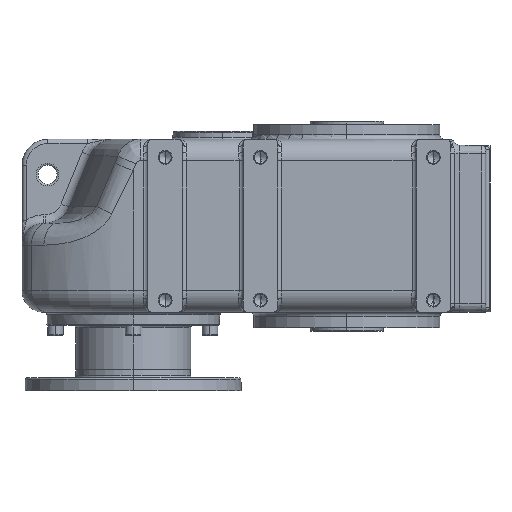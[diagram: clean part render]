
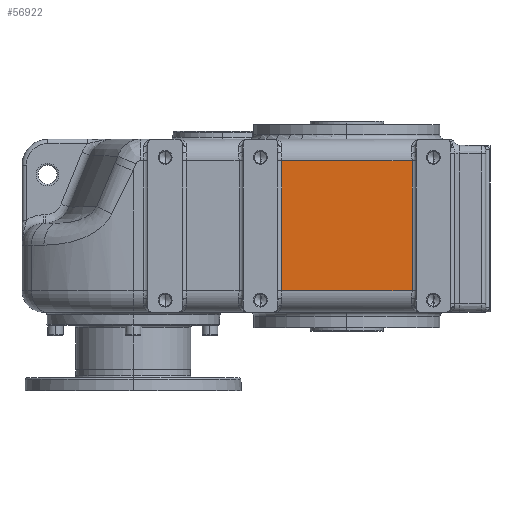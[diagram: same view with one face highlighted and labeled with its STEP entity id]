
A CAD part, left-side view. The second image highlights one B-rep face of the part: STEP entity #56922.
In plain terms, the highlighted planar face has unit normal (-1, 0, 0).
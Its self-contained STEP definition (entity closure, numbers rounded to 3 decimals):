
#261 = EDGE_CURVE ( 'NONE', #294, #56920, #96071, .T. ) ;
#271 = ORIENTED_EDGE ( 'NONE', *, *, #261, .T. ) ;
#292 = EDGE_CURVE ( 'NONE', #8534, #294, #96179, .T. ) ;
#294 = VERTEX_POINT ( 'NONE', #96171 ) ;
#305 = ORIENTED_EDGE ( 'NONE', *, *, #292, .T. ) ;
#8534 = VERTEX_POINT ( 'NONE', #96431 ) ;
#9127 = ORIENTED_EDGE ( 'NONE', *, *, #9833, .T. ) ;
#9833 = EDGE_CURVE ( 'NONE', #56923, #8534, #96416, .T. ) ;
#20464 = DIRECTION ( 'NONE',  ( 0., 1., 0. ) ) ;
#20465 = VECTOR ( 'NONE', #20464, 1000. ) ;
#20466 = CARTESIAN_POINT ( 'NONE',  ( -162., 85., 175. ) ) ;
#20472 = LINE ( 'NONE', #20466, #20465 ) ;
#20535 = CARTESIAN_POINT ( 'NONE',  ( -162., 75.417, 175. ) ) ;
#20536 = DIRECTION ( 'NONE',  ( 0., 1., 0. ) ) ;
#20537 = DIRECTION ( 'NONE',  ( 1., 0., 0. ) ) ;
#20538 = CARTESIAN_POINT ( 'NONE',  ( -162., 247., 200. ) ) ;
#20539 = AXIS2_PLACEMENT_3D ( 'NONE', #20538, #20537, #20536 ) ;
#20540 = PLANE ( 'NONE',  #20539 ) ;
#20541 = FACE_OUTER_BOUND ( 'NONE', #56858, .T. ) ;
#20546 = CARTESIAN_POINT ( 'NONE',  ( -162., -75.417, 175. ) ) ;
#56858 = EDGE_LOOP ( 'NONE', ( #56883, #9127, #305, #271 ) ) ;
#56883 = ORIENTED_EDGE ( 'NONE', *, *, #56897, .T. ) ;
#56897 = EDGE_CURVE ( 'NONE', #56920, #56923, #20472, .T. ) ;
#56920 = VERTEX_POINT ( 'NONE', #20546 ) ;
#56922 = ADVANCED_FACE ( 'NONE', ( #20541 ), #20540, .F. ) ;
#56923 = VERTEX_POINT ( 'NONE', #20535 ) ;
#96064 = DIRECTION ( 'NONE',  ( 0., 0., 1. ) ) ;
#96065 = VECTOR ( 'NONE', #96064, 1000. ) ;
#96066 = CARTESIAN_POINT ( 'NONE',  ( -162., -75.417, 200. ) ) ;
#96071 = LINE ( 'NONE', #96066, #96065 ) ;
#96171 = CARTESIAN_POINT ( 'NONE',  ( -162., -75.417, 25. ) ) ;
#96172 = DIRECTION ( 'NONE',  ( 0., -1., 0. ) ) ;
#96173 = VECTOR ( 'NONE', #96172, 1000. ) ;
#96174 = CARTESIAN_POINT ( 'NONE',  ( -162., 247., 25. ) ) ;
#96179 = LINE ( 'NONE', #96174, #96173 ) ;
#96413 = DIRECTION ( 'NONE',  ( 0., 0., -1. ) ) ;
#96414 = VECTOR ( 'NONE', #96413, 1000. ) ;
#96415 = CARTESIAN_POINT ( 'NONE',  ( -162., 75.417, 200. ) ) ;
#96416 = LINE ( 'NONE', #96415, #96414 ) ;
#96431 = CARTESIAN_POINT ( 'NONE',  ( -162., 75.417, 25. ) ) ;
